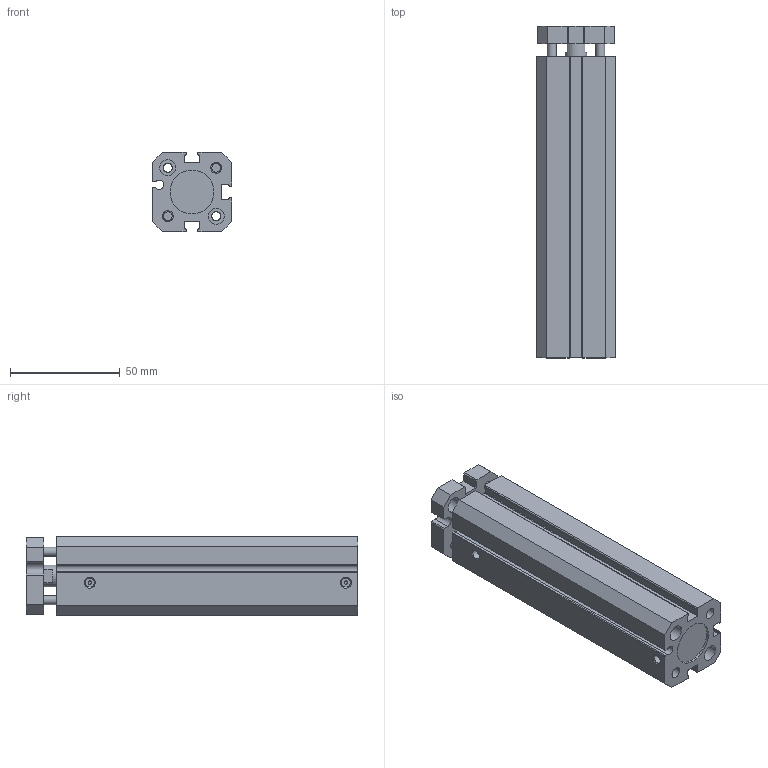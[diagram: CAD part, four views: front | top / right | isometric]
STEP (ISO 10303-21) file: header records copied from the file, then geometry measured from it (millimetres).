
FILE_DESCRIPTION( ( 'STEP AP214' ), '1' );
FILE_NAME( 'C:/Users/emc02044/Desktop/SFM/SFM20X100-S.stp', '2026-07-24T11:21:58', ( 'License CC BY-ND 4.0' ), ( 'CADENAS' ), ' ', 'PARTsolutions', ' ' );
FILE_SCHEMA( ( 'AUTOMOTIVE_DESIGN { 1 0 10303 214 1 1 1 1 }' ) );
Length unit declared in the file: millimetre
Products named in the file (4): SFM20X100-S ()(0); _SFM20X100-S()(0)_DUMMY; _SFM-20*100-MAGNET-THREAD; _SFM20X100(0)._ROD
Assembly tree (3 placements, depth 2):
  SFM20X100-S ()(0)
    _SFM20X100-S()(0)_DUMMY
    _SFM-20*100-MAGNET-THREAD
    _SFM20X100(0)._ROD
Bounding box: 36 x 151 x 36 mm (x, y, z)
Volume: 153558 mm3; surface area: 51869 mm2
Topology: 2 solids, 2 shells, 218 faces, 534 edges, 356 vertices
Faces by surface type: plane 129, cylinder 83, cone 6
Full cylindrical faces by diameter (mm): 1 x2, 1.5 x2, 3.242 x2, 4 x10, 4.134 x6, 5 x6, 7.2 x2, 7.3 x4, 10 x3, 11 x1, 13.333 x1, 20 x2
Entity records: 8036 total; most frequent: DIRECTION 1102, CARTESIAN_POINT 1057, ORIENTED_EDGE 966, EDGE_CURVE 483, AXIS2_PLACEMENT_3D 397, VERTEX_POINT 351, EDGE_LOOP 320, LINE 308
